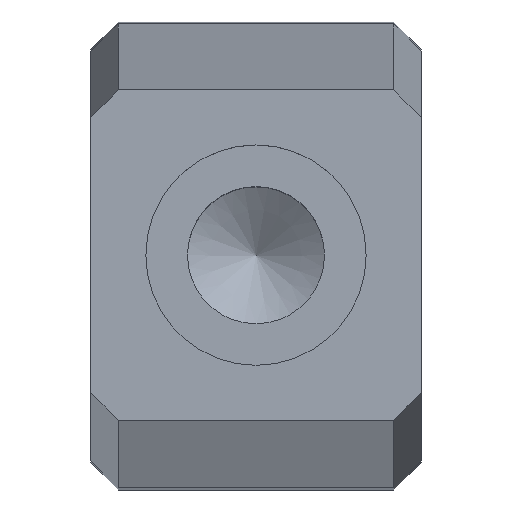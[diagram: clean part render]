
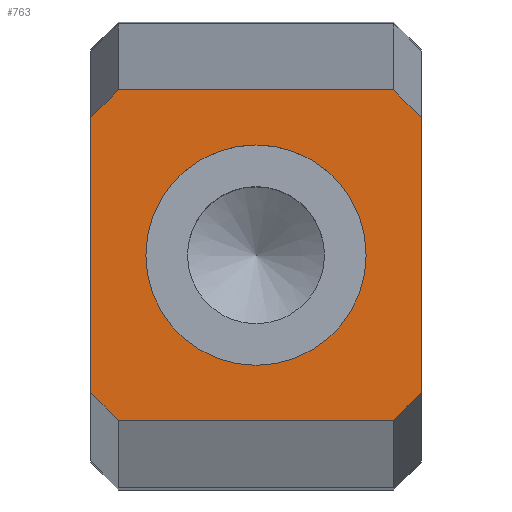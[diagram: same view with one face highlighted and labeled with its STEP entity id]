
A CAD part, top view. The second image highlights one B-rep face of the part: STEP entity #763.
In plain terms, the highlighted planar face has unit normal (0, 0, 1).
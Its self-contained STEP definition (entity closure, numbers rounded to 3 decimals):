
#49=FACE_BOUND('',#192,.T.);
#85=CIRCLE('',#844,4.);
#130=FACE_OUTER_BOUND('',#191,.T.);
#191=EDGE_LOOP('',(#662,#663,#664,#665,#666,#667,#668,#669));
#192=EDGE_LOOP('',(#670));
#219=LINE('',#1177,#283);
#221=LINE('',#1183,#285);
#236=LINE('',#1219,#300);
#238=LINE('',#1223,#302);
#246=LINE('',#1243,#310);
#250=LINE('',#1250,#314);
#253=LINE('',#1259,#317);
#258=LINE('',#1296,#322);
#283=VECTOR('',#949,9.982);
#285=VECTOR('',#955,1.421);
#300=VECTOR('',#988,10.);
#302=VECTOR('',#992,1.421);
#310=VECTOR('',#1014,1.421);
#314=VECTOR('',#1020,10.);
#317=VECTOR('',#1031,1.421);
#322=VECTOR('',#1080,9.982);
#354=VERTEX_POINT('',#1174);
#355=VERTEX_POINT('',#1176);
#357=VERTEX_POINT('',#1182);
#369=VERTEX_POINT('',#1218);
#370=VERTEX_POINT('',#1222);
#375=VERTEX_POINT('',#1242);
#377=VERTEX_POINT('',#1248);
#379=VERTEX_POINT('',#1258);
#388=VERTEX_POINT('',#1288);
#433=EDGE_CURVE('',#355,#354,#219,.T.);
#436=EDGE_CURVE('',#355,#357,#221,.T.);
#454=EDGE_CURVE('',#357,#369,#236,.T.);
#456=EDGE_CURVE('',#369,#370,#238,.T.);
#466=EDGE_CURVE('',#375,#354,#246,.T.);
#470=EDGE_CURVE('',#375,#377,#250,.T.);
#474=EDGE_CURVE('',#379,#377,#253,.T.);
#486=EDGE_CURVE('',#388,#388,#85,.T.);
#488=EDGE_CURVE('',#379,#370,#258,.T.);
#662=ORIENTED_EDGE('',*,*,#436,.F.);
#663=ORIENTED_EDGE('',*,*,#433,.T.);
#664=ORIENTED_EDGE('',*,*,#466,.F.);
#665=ORIENTED_EDGE('',*,*,#470,.T.);
#666=ORIENTED_EDGE('',*,*,#474,.F.);
#667=ORIENTED_EDGE('',*,*,#488,.T.);
#668=ORIENTED_EDGE('',*,*,#456,.F.);
#669=ORIENTED_EDGE('',*,*,#454,.F.);
#670=ORIENTED_EDGE('',*,*,#486,.T.);
#715=PLANE('',#849);
#763=ADVANCED_FACE('',(#130,#49),#715,.T.);
#844=AXIS2_PLACEMENT_3D('',#1289,#1068,#1069);
#849=AXIS2_PLACEMENT_3D('',#1295,#1078,#1079);
#949=DIRECTION('',(0.,-1.,0.));
#955=DIRECTION('',(0.704,0.71,0.));
#988=DIRECTION('',(1.,0.,0.));
#992=DIRECTION('',(0.704,-0.71,0.));
#1014=DIRECTION('',(-0.704,0.71,0.));
#1020=DIRECTION('',(1.,0.,0.));
#1031=DIRECTION('',(-0.704,-0.71,0.));
#1068=DIRECTION('center_axis',(0.,0.,-1.));
#1069=DIRECTION('ref_axis',(1.,0.,0.));
#1078=DIRECTION('center_axis',(0.,0.,1.));
#1079=DIRECTION('ref_axis',(1.,0.,0.));
#1080=DIRECTION('',(0.,1.,0.));
#1174=CARTESIAN_POINT('',(0.,-4.991,19.05));
#1176=CARTESIAN_POINT('',(0.,4.991,19.05));
#1177=CARTESIAN_POINT('',(0.,6.,19.05));
#1182=CARTESIAN_POINT('',(1.,6.,19.05));
#1183=CARTESIAN_POINT('',(-2.226,2.745,19.05));
#1218=CARTESIAN_POINT('',(11.,6.,19.05));
#1219=CARTESIAN_POINT('',(0.,6.,19.05));
#1222=CARTESIAN_POINT('',(12.,4.991,19.05));
#1223=CARTESIAN_POINT('',(11.253,5.745,19.05));
#1242=CARTESIAN_POINT('',(1.,-6.,19.05));
#1243=CARTESIAN_POINT('',(1.077,-6.078,19.05));
#1248=CARTESIAN_POINT('',(11.,-6.,19.05));
#1250=CARTESIAN_POINT('',(0.,-6.,19.05));
#1258=CARTESIAN_POINT('',(12.,-4.991,19.05));
#1259=CARTESIAN_POINT('',(7.95,-9.078,19.05));
#1288=CARTESIAN_POINT('',(10.,0.,19.05));
#1289=CARTESIAN_POINT('Origin',(6.,0.,19.05));
#1295=CARTESIAN_POINT('Origin',(0.,-6.,19.05));
#1296=CARTESIAN_POINT('',(12.,6.,19.05));
